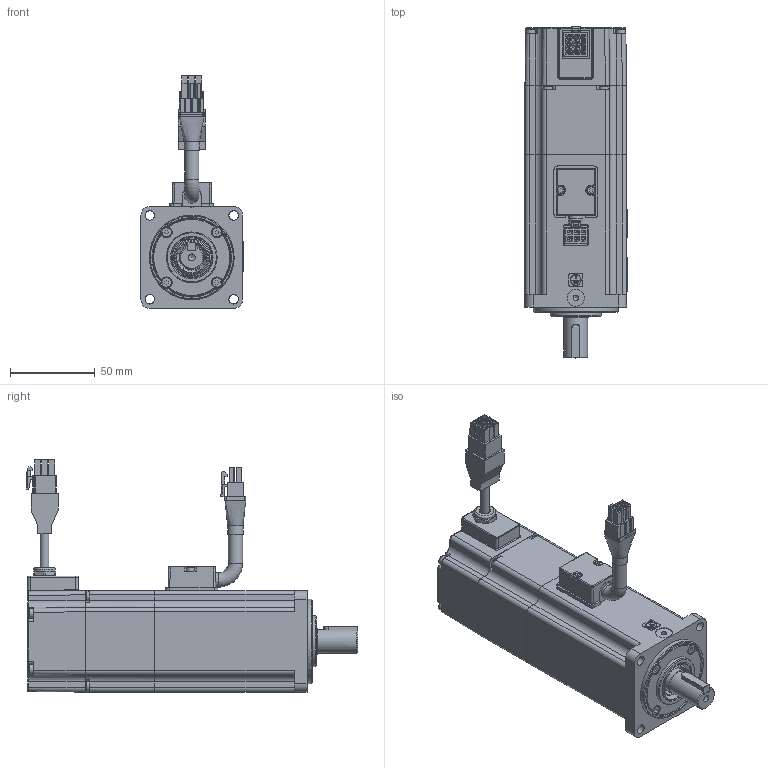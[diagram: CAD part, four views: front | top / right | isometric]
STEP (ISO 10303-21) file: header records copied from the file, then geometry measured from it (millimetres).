
FILE_DESCRIPTION(/* description */ ('AdapterTestApp'),/* implementation_level */ '2;1');
FILE_NAME(/* name */ 'TCE60 2B XX 3 A2 1 D0',/* time_stamp */ '2015-10-05T09:45:55+02:00',/* author */ ('AdapterTestApp'),/* organization */ ('Siemens PLM Software'),/* preprocessor_version */ 'ST-DEVELOPER v15.6',/* originating_system */ 'DEX',/* authorisation */ $);
FILE_SCHEMA (('AUTOMOTIVE_DESIGN {1 0 10303 214 3 1 1}'));
Products named in the file (35): TCE60 2B XX 3 A2 1 D0_vuoto; U5100004_vuoto; 003120002512; 005911000598; 003108015152_curva; 003303000376; 005453000452_D8,5; 001799000503; 005911000494; 003251022005; 005911003621; 005123000690; 007102000212; 001107000618; 003108020178_dritto; 005603001018; 003303000021; 005711000200; 003155000302; 003003050017; 005008000906; 003103001508; 005911000262; 005123000100; 005119001312; 005008000958; 005008000400; 005008000960; 005204000001; 005204000002; 005204000004; 005113000362; 005911003622
Assembly tree (48 placements, depth 4):
  TCE60 2B XX 3 A2 1 D0_vuoto
    U5100004_vuoto
      003120002512
      005911000598  x2
      003108015152_curva
        003108015152_curva
        003303000376
        005453000452_D8,5
      001799000503
    005911000494  x4
    003251022005
    005911003621  x4
    005123000690
    007102000212
      001107000618
      003108020178_dritto
        003108020178_dritto
        005603001018
        003303000021
        005711000200  x2
    003155000302
    003003050017
    005008000906
    003103001508
    005911000262  x4
    005123000100
    005119001312
    005008000958
    005008000400
    005008000960
    005204000001
    005204000002
    005204000004
    005113000362
    005911003622  x4
Bounding box: 60.3 x 195.9 x 137.2 mm (x, y, z)
Volume: 241553.1 mm3; surface area: 156208.2 mm2
Topology: 62 solids, 62 shells, 2383 faces, 5976 edges, 3830 vertices
Faces by surface type: plane 1384, cylinder 511, bspline 142, torus 137, cone 136, extrusion 37, sphere 36
Full cylindrical faces by diameter (mm): 2.013 x3, 2.459 x38, 2.5 x2, 2.6 x13, 2.7 x2, 3 x16, 3.242 x4, 3.5 x16, 4.134 x2, 4.7 x3, 5 x1, 5.2 x1, 5.3 x2, 5.5 x13, 6 x3, 6.5 x1, 7.2 x1, 8 x1, 8.1 x1, 8.5 x2, 8.51 x1, 9.11 x1, 9.98 x1, 10 x5, 10.3 x2, 10.647 x1, 12 x2, 12.7 x1, 14 x2, 14.98 x1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
Entity records: 75090 total; most frequent: CARTESIAN_POINT 22999, ORIENTED_EDGE 10140, DIRECTION 9987, EDGE_CURVE 5070, VERTEX_POINT 3457, AXIS2_PLACEMENT_3D 3372, VECTOR 3243, LINE 3206
